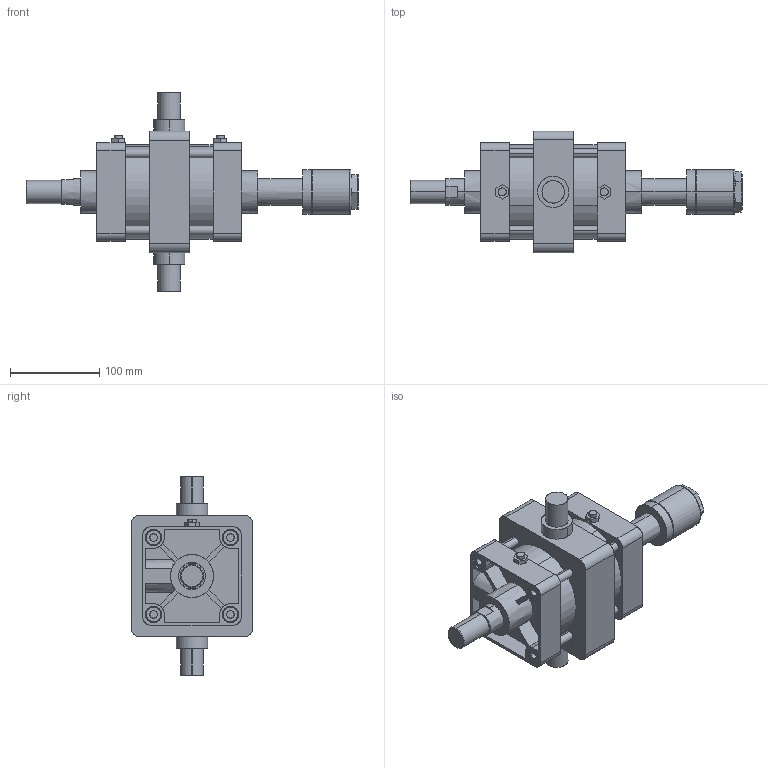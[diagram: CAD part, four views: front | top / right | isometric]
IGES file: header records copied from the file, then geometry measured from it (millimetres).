
Start section: SolidWorks IGES file using analytic representation for surfaces
Global section: file name: C:\Users\Toshiba\Desktop\KGA7-100#-50-T.IGS; native system: SolidWorks 2014; preprocessor: SolidWorks 2014; author: Toshiba; date: 160414.155613; units: millimetre
Bounding box: 371 x 136 x 222 mm (x, y, z)
Surface area: 307882.6 mm2 (no closed solid volume)
Topology: 0 solids, 0 shells, 388 faces, 6881 edges, 6877 vertices
Faces by surface type: bspline 207, revolution 181
